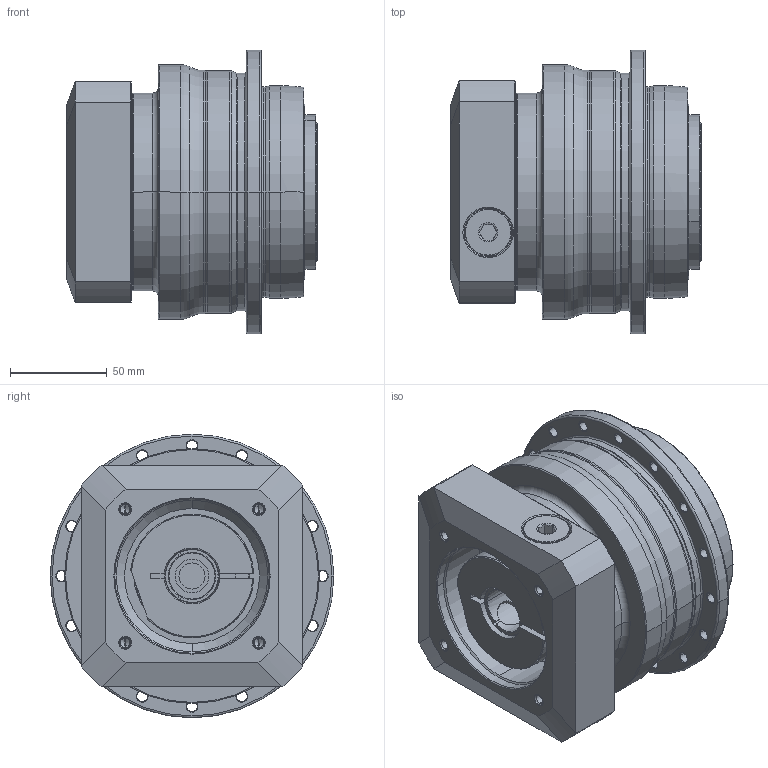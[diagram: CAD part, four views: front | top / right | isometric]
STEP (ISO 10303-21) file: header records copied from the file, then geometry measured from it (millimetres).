
FILE_DESCRIPTION((''),'2;1');
FILE_NAME('AH110_1ST_24-P0409500101_ASM','2016-08-02T',('d00435'),(''),'PRO/ENGINEER BY PARAMETRIC TECHNOLOGY CORPORATION, 2008410','PRO/ENGINEER BY PARAMETRIC TECHNOLOGY CORPORATION, 2008410','');
FILE_SCHEMA(('CONFIG_CONTROL_DESIGN'));
Length unit declared in the file: millimetre
Products named in the file (8): P0278400003; P0359400003; P1318400101; P0409500101; P0503500010; P0912401001; 21711418017; AH110_1ST_24-P0409500101_ASM
Assembly tree (7 placements, depth 2):
  AH110_1ST_24-P0409500101_ASM
    P0278400003
    P0359400003
    P1318400101
    P0409500101
    P0503500010
    P0912401001
    21711418017
Bounding box: 130 x 147 x 147 mm (x, y, z)
Volume: 1297667 mm3; surface area: 220670.8 mm2
Topology: 8 solids, 54 shells, 733 faces, 1719 edges, 1063 vertices
Faces by surface type: cylinder 322, cone 194, plane 143, torus 60, bspline 14
Entity records: 25822 total; most frequent: CARTESIAN_POINT 8489, DIRECTION 4009, ORIENTED_EDGE 3150, AXIS2_PLACEMENT_3D 1711, EDGE_CURVE 1665, VERTEX_POINT 1063, CIRCLE 967, EDGE_LOOP 892
